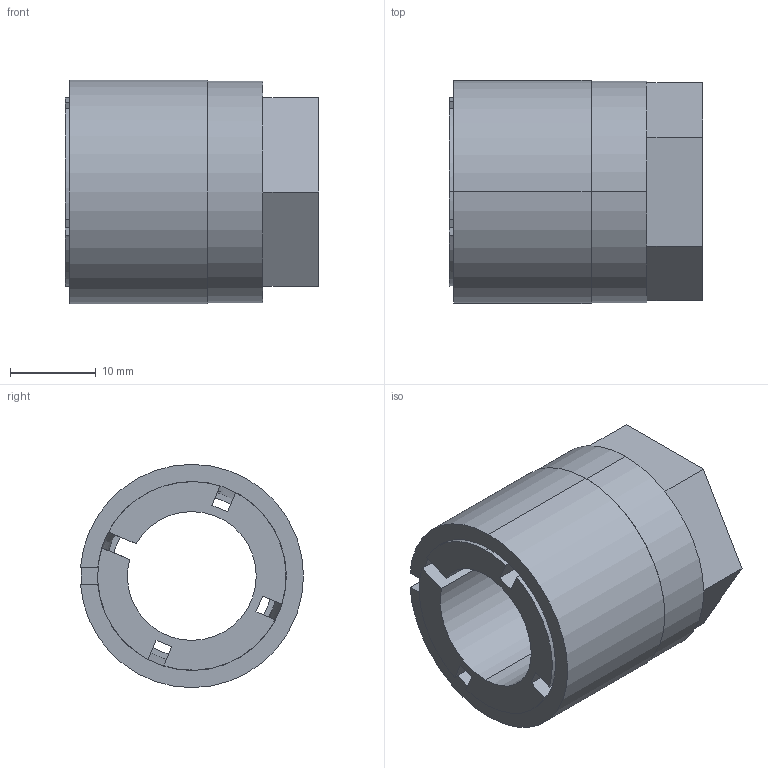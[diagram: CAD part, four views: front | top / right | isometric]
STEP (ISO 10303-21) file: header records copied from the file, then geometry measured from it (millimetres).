
FILE_DESCRIPTION (( 'STEP AP203' ), '1' );
FILE_NAME ('KBS 56 - 15 x 26.STEP', '2015-07-07T20:24:42', ( '' ), ( '' ), 'SwSTEP 2.0', 'SolidWorks 2010', '' );
FILE_SCHEMA (( 'CONFIG_CONTROL_DESIGN' ));
Length unit declared in the file: millimetre
Products named in the file (1): KBS 56 - 15 x 26
Bounding box: 29.5 x 25.96 x 26 mm (x, y, z)
Volume: 8978.8 mm3; surface area: 8827.7 mm2
Topology: 3 solids, 3 shells, 58 faces, 152 edges, 101 vertices
Faces by surface type: plane 30, cylinder 20, cone 8
Entity records: 1892 total; most frequent: CARTESIAN_POINT 348, DIRECTION 311, ORIENTED_EDGE 304, EDGE_CURVE 152, AXIS2_PLACEMENT_3D 110, VERTEX_POINT 101, LINE 91, VECTOR 91
